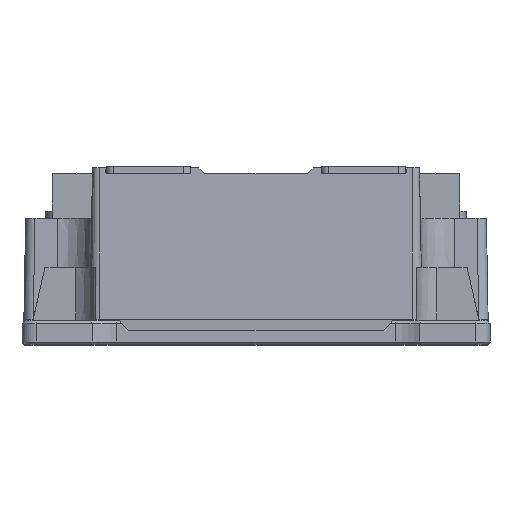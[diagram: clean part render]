
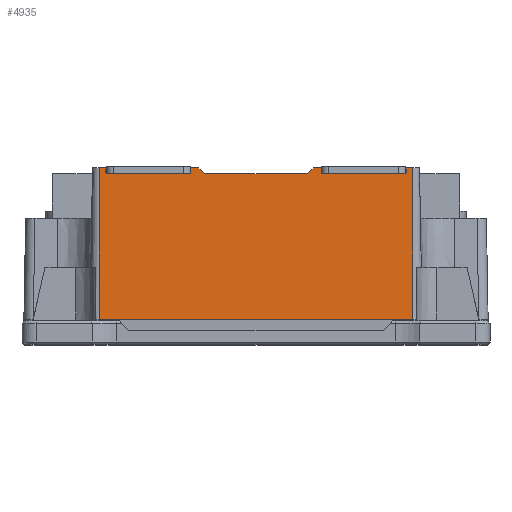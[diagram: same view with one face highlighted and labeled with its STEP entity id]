
A CAD part, top view. The second image highlights one B-rep face of the part: STEP entity #4935.
In plain terms, the highlighted planar face has unit normal (0, 0.018, 1).
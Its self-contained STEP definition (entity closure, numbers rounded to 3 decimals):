
#558 = LINE ( 'NONE', #605, #594 ) ;
#567 = DIRECTION ( 'NONE',  ( -0.017, -1., 0.017 ) ) ;
#568 = CARTESIAN_POINT ( 'NONE',  ( 67.05, 36.476, 6.458 ) ) ;
#574 = LINE ( 'NONE', #568, #634 ) ;
#594 = VECTOR ( 'NONE', #604, 1000. ) ;
#604 = DIRECTION ( 'NONE',  ( 1., 0., 0. ) ) ;
#605 = CARTESIAN_POINT ( 'NONE',  ( -9.624, 36.5, 6.457 ) ) ;
#634 = VECTOR ( 'NONE', #567, 1000. ) ;
#2688 = ORIENTED_EDGE ( 'NONE', *, *, #5139, .T. ) ;
#2693 = ORIENTED_EDGE ( 'NONE', *, *, #21548, .F. ) ;
#2695 = ORIENTED_EDGE ( 'NONE', *, *, #10277, .F. ) ;
#2697 = EDGE_CURVE ( 'NONE', #5391, #5151, #6350, .T. ) ;
#4929 = ORIENTED_EDGE ( 'NONE', *, *, #23102, .F. ) ;
#4935 = ADVANCED_FACE ( 'NONE', ( #6397 ), #26750, .T. ) ;
#4936 = VERTEX_POINT ( 'NONE', #26743 ) ;
#4937 = EDGE_CURVE ( 'NONE', #23063, #4936, #26735, .T. ) ;
#5139 = EDGE_CURVE ( 'NONE', #12989, #5151, #27434, .T. ) ;
#5151 = VERTEX_POINT ( 'NONE', #27478 ) ;
#5342 = ORIENTED_EDGE ( 'NONE', *, *, #5344, .F. ) ;
#5344 = EDGE_CURVE ( 'NONE', #22318, #22228, #28150, .T. ) ;
#5378 = EDGE_CURVE ( 'NONE', #5391, #23150, #28383, .T. ) ;
#5391 = VERTEX_POINT ( 'NONE', #28378 ) ;
#6347 = DIRECTION ( 'NONE',  ( -1., 0., 0. ) ) ;
#6348 = VECTOR ( 'NONE', #6347, 1000. ) ;
#6349 = CARTESIAN_POINT ( 'NONE',  ( 68.5, 5.4, 7. ) ) ;
#6350 = LINE ( 'NONE', #6349, #6348 ) ;
#6397 = FACE_OUTER_BOUND ( 'NONE', #36236, .T. ) ;
#6627 = DIRECTION ( 'NONE',  ( 0.017, 1., -0.017 ) ) ;
#6628 = VECTOR ( 'NONE', #6627, 1000. ) ;
#7125 = DIRECTION ( 'NONE',  ( -0.017, 1., -0.017 ) ) ;
#7126 = VECTOR ( 'NONE', #7125, 1000. ) ;
#7127 = CARTESIAN_POINT ( 'NONE',  ( 2.95, 36.476, 6.458 ) ) ;
#7128 = LINE ( 'NONE', #7127, #7126 ) ;
#7267 = CARTESIAN_POINT ( 'NONE',  ( 2.95, 36.5, 6.457 ) ) ;
#7276 = CARTESIAN_POINT ( 'NONE',  ( 21.07, 37.644, 6.437 ) ) ;
#7277 = LINE ( 'NONE', #7276, #6628 ) ;
#7338 = DIRECTION ( 'NONE',  ( 1., 0., 0. ) ) ;
#7339 = VECTOR ( 'NONE', #7338, 1000. ) ;
#7340 = CARTESIAN_POINT ( 'NONE',  ( -9.624, 36.5, 6.457 ) ) ;
#7341 = CARTESIAN_POINT ( 'NONE',  ( 21.05, 36.5, 6.457 ) ) ;
#7342 = LINE ( 'NONE', #7340, #7339 ) ;
#7757 = CARTESIAN_POINT ( 'NONE',  ( 46., 36.5, 6.457 ) ) ;
#7870 = DIRECTION ( 'NONE',  ( 0.707, -0.707, 0.012 ) ) ;
#7871 = VECTOR ( 'NONE', #7870, 1000. ) ;
#7872 = CARTESIAN_POINT ( 'NONE',  ( 22.828, 37.672, 6.437 ) ) ;
#7873 = LINE ( 'NONE', #7872, #7871 ) ;
#8155 = CARTESIAN_POINT ( 'NONE',  ( 24., 36.5, 6.457 ) ) ;
#8204 = CARTESIAN_POINT ( 'NONE',  ( 22.8, 37.7, 6.436 ) ) ;
#8271 = DIRECTION ( 'NONE',  ( 0.707, 0.707, -0.012 ) ) ;
#8272 = VECTOR ( 'NONE', #8271, 1000. ) ;
#8273 = CARTESIAN_POINT ( 'NONE',  ( 47.172, 37.672, 6.437 ) ) ;
#8281 = LINE ( 'NONE', #8273, #8272 ) ;
#8294 = CARTESIAN_POINT ( 'NONE',  ( 47.2, 37.7, 6.436 ) ) ;
#8699 = CARTESIAN_POINT ( 'NONE',  ( 48.929, 37.7, 6.436 ) ) ;
#8842 = DIRECTION ( 'NONE',  ( 1., 0., 0. ) ) ;
#8843 = VECTOR ( 'NONE', #8842, 1000. ) ;
#8844 = CARTESIAN_POINT ( 'NONE',  ( 48.929, 37.7, 6.436 ) ) ;
#8845 = LINE ( 'NONE', #8844, #8843 ) ;
#8958 = DIRECTION ( 'NONE',  ( 1., 0., 0. ) ) ;
#8959 = VECTOR ( 'NONE', #8958, 1000. ) ;
#8960 = CARTESIAN_POINT ( 'NONE',  ( 1.5, 37.7, 6.436 ) ) ;
#8963 = LINE ( 'NONE', #8960, #8959 ) ;
#8968 = CARTESIAN_POINT ( 'NONE',  ( 67.071, 37.7, 6.436 ) ) ;
#8969 = CARTESIAN_POINT ( 'NONE',  ( 68.5, 37.7, 6.436 ) ) ;
#9736 = LINE ( 'NONE', #9853, #9840 ) ;
#9839 = DIRECTION ( 'NONE',  ( 1., 0., 0. ) ) ;
#9840 = VECTOR ( 'NONE', #9839, 1000. ) ;
#9853 = CARTESIAN_POINT ( 'NONE',  ( 1.5, 37.7, 6.436 ) ) ;
#10277 = EDGE_CURVE ( 'NONE', #12989, #13039, #9736, .T. ) ;
#10397 = CARTESIAN_POINT ( 'NONE',  ( 21.071, 37.7, 6.436 ) ) ;
#10513 = CARTESIAN_POINT ( 'NONE',  ( 1.5, 37.7, 6.436 ) ) ;
#10729 = DIRECTION ( 'NONE',  ( 1., 0., 0. ) ) ;
#10730 = VECTOR ( 'NONE', #10729, 1000. ) ;
#10760 = CARTESIAN_POINT ( 'NONE',  ( 22.8, 37.7, 6.436 ) ) ;
#10767 = LINE ( 'NONE', #10760, #10730 ) ;
#10849 = CARTESIAN_POINT ( 'NONE',  ( 2.929, 37.7, 6.436 ) ) ;
#12978 = VERTEX_POINT ( 'NONE', #10397 ) ;
#12989 = VERTEX_POINT ( 'NONE', #10513 ) ;
#13012 = EDGE_CURVE ( 'NONE', #12978, #22308, #10767, .T. ) ;
#13039 = VERTEX_POINT ( 'NONE', #10849 ) ;
#17118 = CARTESIAN_POINT ( 'NONE',  ( 67.05, 36.5, 6.457 ) ) ;
#21440 = ORIENTED_EDGE ( 'NONE', *, *, #21585, .F. ) ;
#21441 = EDGE_CURVE ( 'NONE', #21542, #13039, #7128, .T. ) ;
#21542 = VERTEX_POINT ( 'NONE', #7267 ) ;
#21548 = EDGE_CURVE ( 'NONE', #21586, #12978, #7277, .T. ) ;
#21575 = ORIENTED_EDGE ( 'NONE', *, *, #21441, .T. ) ;
#21583 = ORIENTED_EDGE ( 'NONE', *, *, #2697, .F. ) ;
#21585 = EDGE_CURVE ( 'NONE', #21542, #21586, #7342, .T. ) ;
#21586 = VERTEX_POINT ( 'NONE', #7341 ) ;
#22228 = VERTEX_POINT ( 'NONE', #7757 ) ;
#22282 = EDGE_CURVE ( 'NONE', #22308, #22318, #7873, .T. ) ;
#22308 = VERTEX_POINT ( 'NONE', #8204 ) ;
#22318 = VERTEX_POINT ( 'NONE', #8155 ) ;
#22636 = EDGE_CURVE ( 'NONE', #22228, #22738, #8281, .T. ) ;
#22738 = VERTEX_POINT ( 'NONE', #8294 ) ;
#23063 = VERTEX_POINT ( 'NONE', #8699 ) ;
#23102 = EDGE_CURVE ( 'NONE', #22738, #23063, #8845, .T. ) ;
#23150 = VERTEX_POINT ( 'NONE', #8969 ) ;
#23151 = VERTEX_POINT ( 'NONE', #8968 ) ;
#23159 = EDGE_CURVE ( 'NONE', #23151, #23150, #8963, .T. ) ;
#26732 = DIRECTION ( 'NONE',  ( 0.017, -1., 0.017 ) ) ;
#26733 = VECTOR ( 'NONE', #26732, 1000. ) ;
#26734 = CARTESIAN_POINT ( 'NONE',  ( 48.93, 37.644, 6.437 ) ) ;
#26735 = LINE ( 'NONE', #26734, #26733 ) ;
#26743 = CARTESIAN_POINT ( 'NONE',  ( 48.95, 36.5, 6.457 ) ) ;
#26746 = DIRECTION ( 'NONE',  ( 0., -1., 0.017 ) ) ;
#26747 = DIRECTION ( 'NONE',  ( 0., 0.017, 1. ) ) ;
#26748 = CARTESIAN_POINT ( 'NONE',  ( 63.5, 5.4, 7. ) ) ;
#26749 = AXIS2_PLACEMENT_3D ( 'NONE', #26748, #26747, #26746 ) ;
#26750 = PLANE ( 'NONE',  #26749 ) ;
#27431 = DIRECTION ( 'NONE',  ( 0., -1., 0.017 ) ) ;
#27432 = VECTOR ( 'NONE', #27431, 1000. ) ;
#27433 = CARTESIAN_POINT ( 'NONE',  ( 1.5, 5.4, 7. ) ) ;
#27434 = LINE ( 'NONE', #27433, #27432 ) ;
#27478 = CARTESIAN_POINT ( 'NONE',  ( 1.5, 5.4, 7. ) ) ;
#28136 = DIRECTION ( 'NONE',  ( 1., 0., 0. ) ) ;
#28137 = VECTOR ( 'NONE', #28136, 1000. ) ;
#28138 = CARTESIAN_POINT ( 'NONE',  ( -9.624, 36.5, 6.457 ) ) ;
#28150 = LINE ( 'NONE', #28138, #28137 ) ;
#28378 = CARTESIAN_POINT ( 'NONE',  ( 68.5, 5.4, 7. ) ) ;
#28380 = DIRECTION ( 'NONE',  ( 0., 1., -0.017 ) ) ;
#28381 = VECTOR ( 'NONE', #28380, 1000. ) ;
#28382 = CARTESIAN_POINT ( 'NONE',  ( 68.5, 5.4, 7. ) ) ;
#28383 = LINE ( 'NONE', #28382, #28381 ) ;
#31693 = ORIENTED_EDGE ( 'NONE', *, *, #5378, .T. ) ;
#31698 = VERTEX_POINT ( 'NONE', #17118 ) ;
#33405 = ORIENTED_EDGE ( 'NONE', *, *, #22636, .F. ) ;
#36213 = ORIENTED_EDGE ( 'NONE', *, *, #23159, .F. ) ;
#36216 = ORIENTED_EDGE ( 'NONE', *, *, #36227, .F. ) ;
#36226 = ORIENTED_EDGE ( 'NONE', *, *, #36264, .T. ) ;
#36227 = EDGE_CURVE ( 'NONE', #4936, #31698, #558, .T. ) ;
#36236 = EDGE_LOOP ( 'NONE', ( #31693, #36213, #36226, #36216, #36251, #4929, #33405, #5342, #36248, #36250, #2693, #21440, #21575, #2695, #2688, #21583 ) ) ;
#36248 = ORIENTED_EDGE ( 'NONE', *, *, #22282, .F. ) ;
#36250 = ORIENTED_EDGE ( 'NONE', *, *, #13012, .F. ) ;
#36251 = ORIENTED_EDGE ( 'NONE', *, *, #4937, .F. ) ;
#36264 = EDGE_CURVE ( 'NONE', #23151, #31698, #574, .T. ) ;
